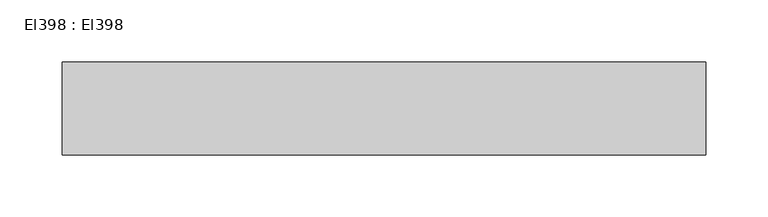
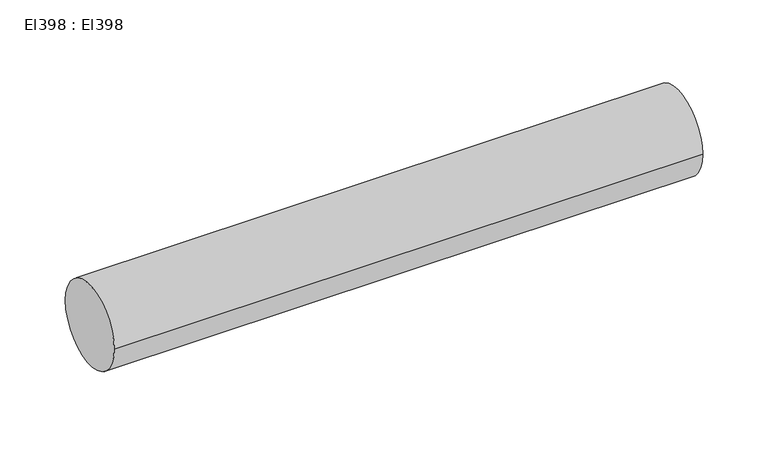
"""IFC4 building model written with IfcOpenShell, lengths in millimetres: cable carrier segment geometry, El398 : El398."""

from ifc_helpers import new_model, si_unit, point, frame, frame_2d, origin, place, context, project, spatial, circle_curve, trimmed, segment, composite_curve, outline, extrude, source, transform, mapped, element, save


def el398_el398_4ab1d4cf(model_context):
    return source(origin(), model_context, "Body", "SweptSolid", [
        extrude(outline(composite_curve([segment(trimmed(circle_curve(frame_2d((13222.1, 1200.0)), 37.5), [point((13184.6, 1200.0))], [point((13259.6, 1200.0))], False, "CARTESIAN"), True, "CONTINUOUS"), segment(trimmed(circle_curve(frame_2d((13222.1, 1200.0)), 37.5), [point((13259.6, 1200.0))], [point((13184.6, 1200.0))], False, "CARTESIAN"), True, "CONTINUOUS")], self_intersect=False)), frame((24202.954, 0.0, 0.0), z_axis=(1.0, 0.0, 0.0), x_axis=(0.0, 1.0, 0.0)), (0.0, 0.0, 1.0), 519.292),
    ])


if __name__ == "__main__":
    model = new_model("IFC4")
    model_context = context("Model", 3, world=origin())
    ifc_project = project(units=[si_unit("LENGTHUNIT", "METRE", prefix="MILLI")], contexts=[model_context])
    site = spatial("IfcSite", under=ifc_project)
    building = spatial("IfcBuilding", under=site)
    placement = place(None, origin())
    el398_el398_shape = el398_el398_4ab1d4cf(model_context)
    element("IfcCableCarrierSegment", 1, ObjectType="El398 : El398", at=placement, inside=building, context=model_context, shape_type="MappedRepresentation", body=[
        mapped(el398_el398_shape, transform((0.0, 0.0, 0.0), x_axis=(1.0, 0.0, 0.0), y_axis=(0.0, 1.0, 0.0), z_axis=(0.0, 0.0, 1.0))),
    ])
    save(model, "model.ifc")
